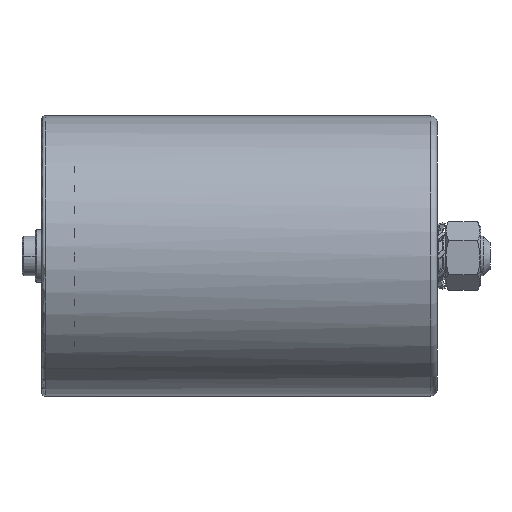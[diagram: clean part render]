
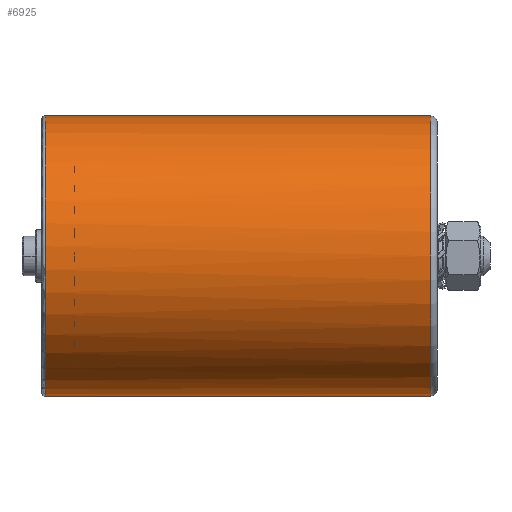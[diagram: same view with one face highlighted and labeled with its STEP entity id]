
A CAD part, left-side view. The second image highlights one B-rep face of the part: STEP entity #6925.
In plain terms, the highlighted cylindrical face has radius 42.5 mm (diameter 85 mm), a partial arc.
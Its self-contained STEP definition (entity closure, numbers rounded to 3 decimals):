
#38 = ORIENTED_EDGE ( 'NONE', *, *, #9504, .T. ) ;
#129 = LINE ( 'NONE', #1508, #366 ) ;
#366 = VECTOR ( 'NONE', #1556, 1000. ) ;
#376 = CARTESIAN_POINT ( 'NONE',  ( 0., 0., 42.5 ) ) ;
#564 = CARTESIAN_POINT ( 'NONE',  ( 0., 2., 42.5 ) ) ;
#793 = DIRECTION ( 'NONE',  ( 0.596, 0., 0.803 ) ) ;
#864 = CARTESIAN_POINT ( 'NONE',  ( 0., 0., 0. ) ) ;
#998 = CARTESIAN_POINT ( 'NONE',  ( 0., 119., -42.5 ) ) ;
#1114 = VERTEX_POINT ( 'NONE', #1853 ) ;
#1508 = CARTESIAN_POINT ( 'NONE',  ( 0., 0., -42.5 ) ) ;
#1556 = DIRECTION ( 'NONE',  ( 0., -1., 0. ) ) ;
#1705 = EDGE_CURVE ( 'NONE', #4545, #2641, #129, .T. ) ;
#1726 = DIRECTION ( 'NONE',  ( 0., -1., 0. ) ) ;
#1853 = CARTESIAN_POINT ( 'NONE',  ( -25.343, 119., -34.117 ) ) ;
#1875 = DIRECTION ( 'NONE',  ( 0., 1., 0. ) ) ;
#2133 = CIRCLE ( 'NONE', #6858, 42.5 ) ;
#2266 = FACE_OUTER_BOUND ( 'NONE', #7821, .T. ) ;
#2450 = CIRCLE ( 'NONE', #7941, 42.5 ) ;
#2641 = VERTEX_POINT ( 'NONE', #7213 ) ;
#3451 = CARTESIAN_POINT ( 'NONE',  ( 0., 119., 42.5 ) ) ;
#3994 = EDGE_CURVE ( 'NONE', #7840, #7917, #8089, .T. ) ;
#4025 = CYLINDRICAL_SURFACE ( 'NONE', #5142, 42.5 ) ;
#4433 = ORIENTED_EDGE ( 'NONE', *, *, #9559, .T. ) ;
#4541 = DIRECTION ( 'NONE',  ( 0., -1., 0. ) ) ;
#4545 = VERTEX_POINT ( 'NONE', #998 ) ;
#4635 = DIRECTION ( 'NONE',  ( 0., -1., 0. ) ) ;
#5008 = ORIENTED_EDGE ( 'NONE', *, *, #9376, .T. ) ;
#5142 = AXIS2_PLACEMENT_3D ( 'NONE', #864, #5332, #5554 ) ;
#5332 = DIRECTION ( 'NONE',  ( 0., -1., 0. ) ) ;
#5554 = DIRECTION ( 'NONE',  ( 0., 0., -1. ) ) ;
#5663 = CARTESIAN_POINT ( 'NONE',  ( 0., 2., 0. ) ) ;
#5736 = ORIENTED_EDGE ( 'NONE', *, *, #1705, .T. ) ;
#6720 = ORIENTED_EDGE ( 'NONE', *, *, #3994, .F. ) ;
#6841 = CARTESIAN_POINT ( 'NONE',  ( 0., 119., 0. ) ) ;
#6858 = AXIS2_PLACEMENT_3D ( 'NONE', #6841, #4541, #793 ) ;
#6866 = AXIS2_PLACEMENT_3D ( 'NONE', #5663, #1875, #9386 ) ;
#6925 = ADVANCED_FACE ( 'NONE', ( #2266 ), #4025, .T. ) ;
#7213 = CARTESIAN_POINT ( 'NONE',  ( 0., 2., -42.5 ) ) ;
#7331 = CIRCLE ( 'NONE', #6866, 42.5 ) ;
#7701 = VECTOR ( 'NONE', #4635, 1000. ) ;
#7714 = DIRECTION ( 'NONE',  ( 0.596, 0., 0.803 ) ) ;
#7821 = EDGE_LOOP ( 'NONE', ( #6720, #4433, #38, #5736, #5008 ) ) ;
#7840 = VERTEX_POINT ( 'NONE', #3451 ) ;
#7917 = VERTEX_POINT ( 'NONE', #564 ) ;
#7941 = AXIS2_PLACEMENT_3D ( 'NONE', #9136, #1726, #7714 ) ;
#8089 = LINE ( 'NONE', #376, #7701 ) ;
#9136 = CARTESIAN_POINT ( 'NONE',  ( 0., 119., 0. ) ) ;
#9376 = EDGE_CURVE ( 'NONE', #2641, #7917, #7331, .T. ) ;
#9386 = DIRECTION ( 'NONE',  ( 0., 0., -1. ) ) ;
#9504 = EDGE_CURVE ( 'NONE', #1114, #4545, #2450, .T. ) ;
#9559 = EDGE_CURVE ( 'NONE', #7840, #1114, #2133, .T. ) ;
